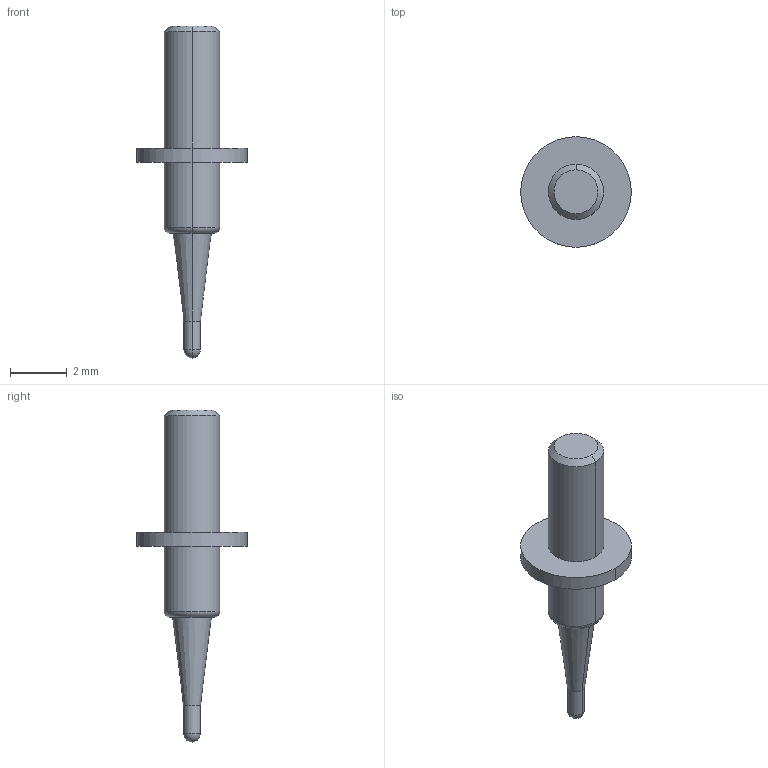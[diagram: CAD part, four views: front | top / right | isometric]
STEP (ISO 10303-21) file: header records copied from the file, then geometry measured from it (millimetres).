
FILE_DESCRIPTION((''),'2;1');
FILE_NAME('NC3820-01PA','2022-05-28T10:46:34',('USER'),(''),'CREO PARAMETRIC BY PTC INC, 2018400','CREO PARAMETRIC BY PTC INC, 2018400','');
FILE_SCHEMA(('CONFIG_CONTROL_DESIGN'));
Length unit declared in the file: millimetre
Products named in the file (1): NC3820-01PA
Bounding box: 3.9 x 3.9 x 11.7 mm (x, y, z)
Volume: 28.9 mm3; surface area: 81 mm2
Topology: 1 solids, 1 shells, 20 faces, 40 edges, 23 vertices
Faces by surface type: cylinder 8, cone 4, plane 4, sphere 2, torus 2
Entity records: 550 total; most frequent: DIRECTION 104, CARTESIAN_POINT 81, ORIENTED_EDGE 76, AXIS2_PLACEMENT_3D 46, EDGE_CURVE 38, CIRCLE 26, VERTEX_POINT 23, EDGE_LOOP 23
